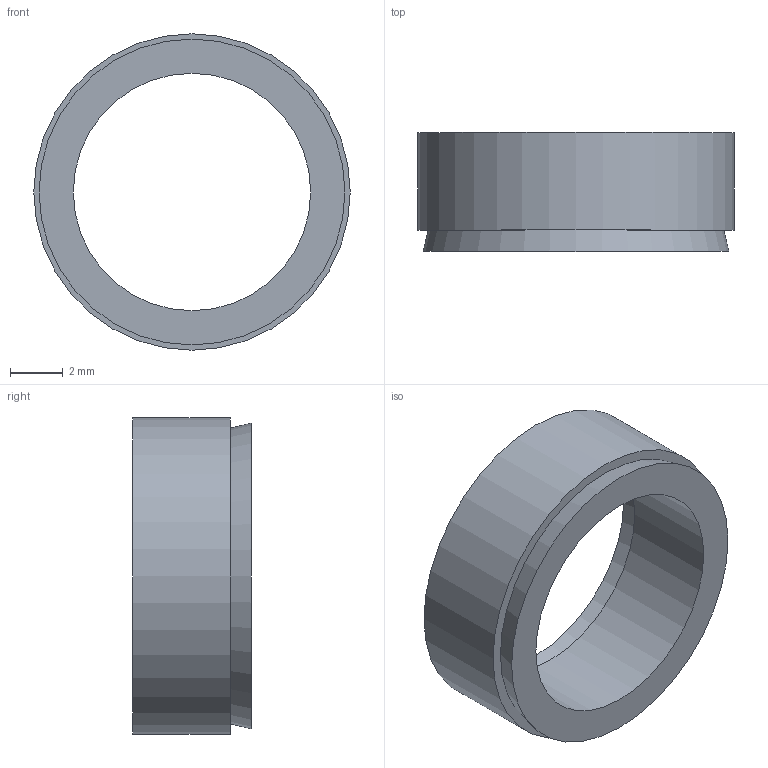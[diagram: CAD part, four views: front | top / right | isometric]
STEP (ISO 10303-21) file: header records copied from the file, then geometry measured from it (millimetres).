
FILE_DESCRIPTION( ( 'Unknown' ), '1' );
FILE_NAME( 'C:/Dokumente und Einstellungen/Sven/Desktop/homepage/cad - homepage/KBS50/KBS 50 - 9 x 12.stp', 'Unknown', ( 'Unknown' ), ( 'Unknown' ), 'XStep 1.0', 'Unknown', ' ' );
FILE_SCHEMA( ( 'automotive_design' ) );
Length unit declared in the file: millimetre
Products named in the file (1): 1
Bounding box: 12 x 4.5 x 12 mm (x, y, z)
Volume: 206.9 mm3; surface area: 410.3 mm2
Topology: 1 solids, 1 shells, 8 faces, 12 edges, 8 vertices
Faces by surface type: plane 4, cylinder 2, cone 2
Full cylindrical faces by diameter (mm): 9 x1, 12 x1
Entity records: 248 total; most frequent: DIRECTION 34, CARTESIAN_POINT 25, AXIS2_PLACEMENT_3D 17, EDGE_LOOP 16, ORIENTED_EDGE 16, FACE_OUTER_BOUND 10, STYLED_ITEM 8, PRESENTATION_STYLE_ASSIGNMENT 8
